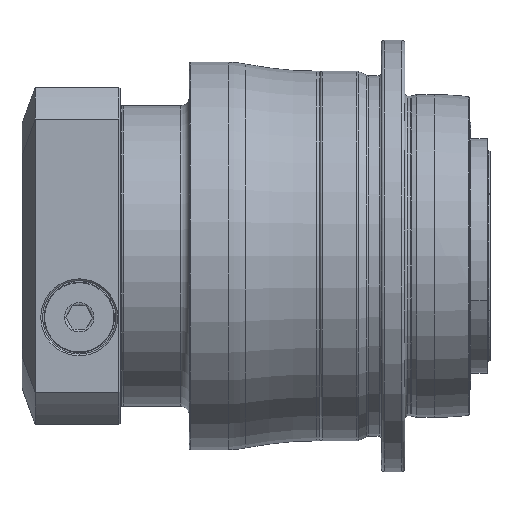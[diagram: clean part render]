
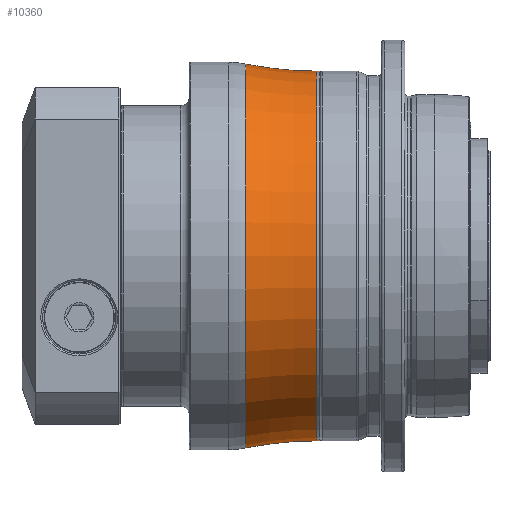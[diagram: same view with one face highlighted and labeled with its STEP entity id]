
A CAD part, top view. The second image highlights one B-rep face of the part: STEP entity #10360.
In plain terms, the highlighted toroidal (fillet/blend) face has major radius 186 mm and minor radius 123 mm.
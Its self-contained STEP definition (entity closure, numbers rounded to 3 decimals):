
#9334=CARTESIAN_POINT('',(-66.5,186.,0.));
#9335=DIRECTION('',(0.,0.,1.));
#9336=DIRECTION('',(0.,-1.,0.));
#9337=AXIS2_PLACEMENT_3D('',#9334,#9335,#9336);
#9344=CARTESIAN_POINT('',(-66.5,-186.,0.));
#9345=DIRECTION('',(0.,0.,-1.));
#9346=DIRECTION('',(0.,1.,0.));
#9347=AXIS2_PLACEMENT_3D('',#9344,#9345,#9346);
#9397=CARTESIAN_POINT('',(-42.262,0.,0.));
#9398=DIRECTION('',(1.,0.,0.));
#9399=DIRECTION('',(0.,1.,0.));
#9400=AXIS2_PLACEMENT_3D('',#9397,#9398,#9399);
#9402=CARTESIAN_POINT('',(-66.5,0.,0.));
#9403=DIRECTION('',(1.,0.,0.));
#9404=DIRECTION('',(0.,1.,0.));
#9405=AXIS2_PLACEMENT_3D('',#9402,#9403,#9404);
#9663=CARTESIAN_POINT('',(-66.5,63.,0.));
#9664=VERTEX_POINT('',#9663);
#9665=CARTESIAN_POINT('',(-66.5,-63.,0.));
#9666=VERTEX_POINT('',#9665);
#9711=CARTESIAN_POINT('',(-42.262,65.412,0.));
#9712=CARTESIAN_POINT('',(-42.262,-65.412,0.));
#9713=VERTEX_POINT('',#9711);
#9714=VERTEX_POINT('',#9712);
#10349=CARTESIAN_POINT('',(-66.5,0.,0.));
#10350=DIRECTION('',(1.,0.,0.));
#10351=DIRECTION('',(0.,-1.,0.));
#10352=AXIS2_PLACEMENT_3D('',#10349,#10350,#10351);
#10353=TOROIDAL_SURFACE('',#10352,186.,123.);
#10354=ORIENTED_EDGE('',*,*,#10343,.T.);
#10355=ORIENTED_EDGE('',*,*,#10259,.F.);
#10356=ORIENTED_EDGE('',*,*,#10229,.F.);
#10357=ORIENTED_EDGE('',*,*,#10256,.T.);
#10358=EDGE_LOOP('',(#10354,#10355,#10356,#10357));
#10359=FACE_OUTER_BOUND('',#10358,.F.);
#10360=ADVANCED_FACE('',(#10359),#10353,.F.);
#9338=CIRCLE('',#9337,123.);
#9348=CIRCLE('',#9347,123.);
#9401=CIRCLE('',#9400,65.412);
#9406=CIRCLE('',#9405,63.);
#10229=EDGE_CURVE('',#9664,#9666,#9406,.T.);
#10256=EDGE_CURVE('',#9664,#9713,#9338,.T.);
#10259=EDGE_CURVE('',#9666,#9714,#9348,.T.);
#10343=EDGE_CURVE('',#9713,#9714,#9401,.T.);
